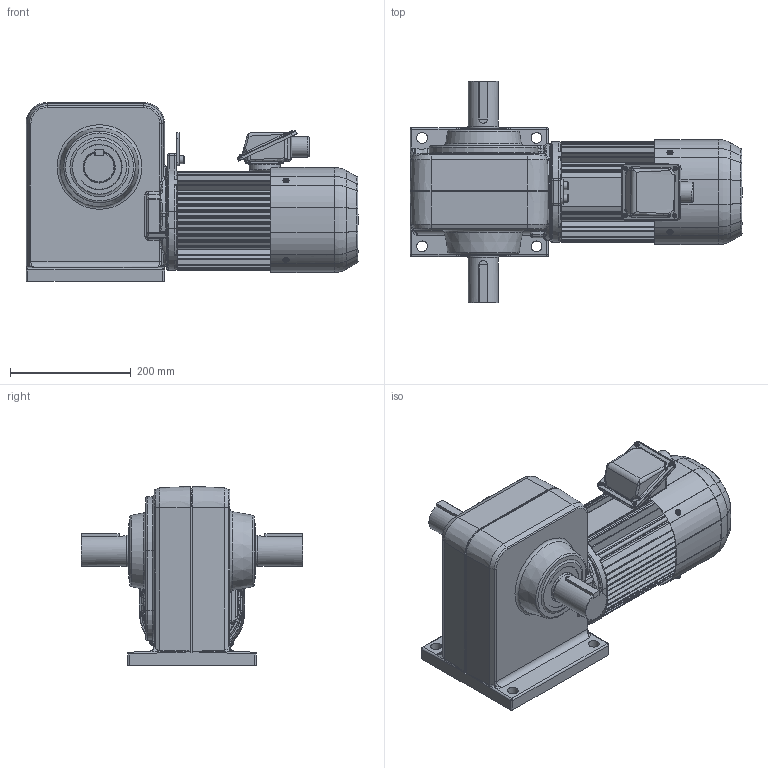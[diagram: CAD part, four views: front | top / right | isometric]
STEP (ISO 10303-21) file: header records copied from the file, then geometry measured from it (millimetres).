
FILE_DESCRIPTION( ( 'Unknown' ), '1' );
FILE_NAME( 'W:/gm/3D-WEB/GV-SHY/完成品/パーツ/完成品/完成品(GV-SHY_脚取付_2.2kW_ﾌﾞﾚｰｷ付き_E_RT).stp', 'Unknown', ( 'Unknown' ), ( 'Unknown' ), 'PSStep 11.0', 'Unknown', ' ' );
FILE_SCHEMA( ( 'AUTOMOTIVE_DESIGN { 1 0 10303 214 1 1 1 1 }' ) );
Length unit declared in the file: millimetre
Products named in the file (6): P164064H13_牒埳偷(E)
Bounding box: 551 x 368 x 297 mm (x, y, z)
Volume: 14226087.5 mm3; surface area: 1113736.1 mm2
Topology: 6 solids, 30 shells, 2046 faces, 5071 edges, 3167 vertices
Faces by surface type: plane 832, cylinder 829, bspline 146, torus 145, cone 78, sphere 16
Full cylindrical faces by diameter (mm): 3.8 x8, 4 x2, 4.2 x8, 4.5 x4, 4.917 x8, 5.5 x4, 5.8 x4, 6 x12, 7 x8, 8 x8, 8.376 x16, 10 x20, 11 x4, 12 x4, 13 x2, 14 x4, 16 x4, 18 x8, 20 x5, 22 x1, 23 x1, 24.117 x2, 25 x2, 26.3 x1, 34 x1, 48 x2, 50 x3, 51.2 x1, 52 x2, 52.1 x1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
Entity records: 91342 total; most frequent: CARTESIAN_POINT 27609, DIRECTION 10279, ORIENTED_EDGE 9384, EDGE_CURVE 4692, AXIS2_PLACEMENT_3D 4040, VERTEX_POINT 3075, EDGE_LOOP 2455, FACE_OUTER_BOUND 2254
